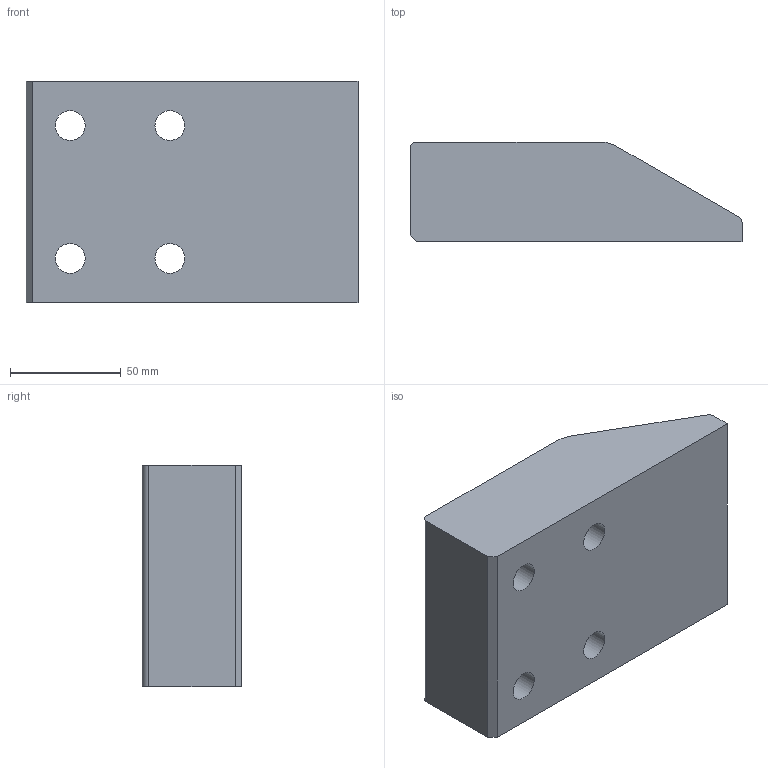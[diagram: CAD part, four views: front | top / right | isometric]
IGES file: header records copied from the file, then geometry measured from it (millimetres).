
Start section: Data from Parasolid IGES Translator 20.0.26, Copyright(c) 2006 Siemens P LM Software. All Rights Reserved.
Global section: file name: G228-01-10015045.igs; native system: By Siemens PLM Incorporated; preprocessor: XPlus GENERIC/IGES 20.0.26; author: Noname; organization: Noname; date: 20190710.094544; units: millimetre
Bounding box: 150 x 45 x 100 mm (x, y, z)
Surface area: 56145.7 mm2 (no closed solid volume)
Topology: 0 solids, 0 shells, 27 faces, 118 edges, 94 vertices
Faces by surface type: revolution 15, extrusion 12
